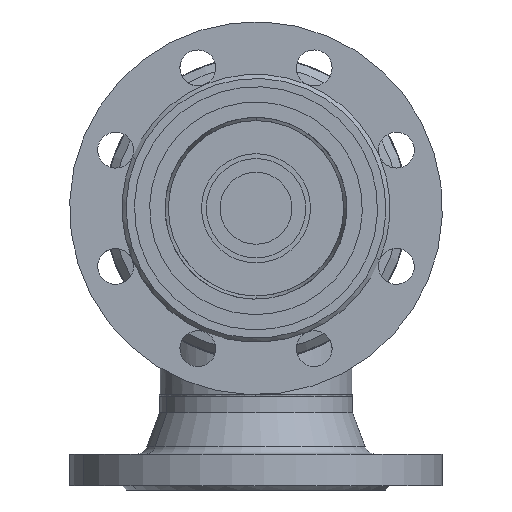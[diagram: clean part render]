
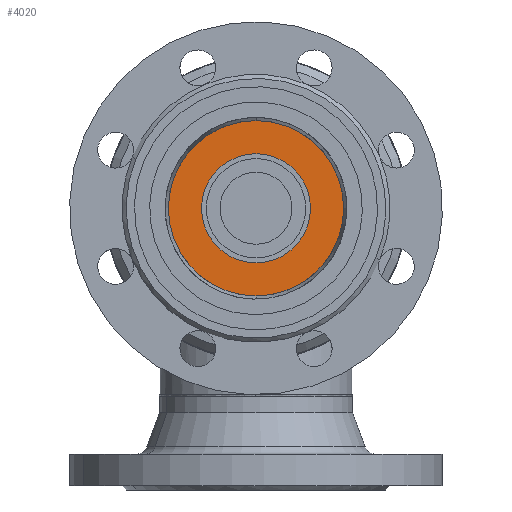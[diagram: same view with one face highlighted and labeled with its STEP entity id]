
A CAD part, front view. The second image highlights one B-rep face of the part: STEP entity #4020.
In plain terms, the highlighted planar face has unit normal (0, -1, 0) as drawn and (0, 0, 1) by its records, which use the part's own axes.
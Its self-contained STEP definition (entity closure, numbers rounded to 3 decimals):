
#1210 = VERTEX_POINT ( 'NONE', #6002 ) ;
#1411 = CIRCLE ( 'NONE', #1412, 70. ) ;
#1412 = AXIS2_PLACEMENT_3D ( 'NONE', #1413, #1414, #1415 ) ;
#1413 = CARTESIAN_POINT ( 'NONE',  ( 0., 0., 15. ) ) ;
#1414 = DIRECTION ( 'NONE',  ( 0., 0., 1. ) ) ;
#1415 = DIRECTION ( 'NONE',  ( 1., 0., 0. ) ) ;
#1437 = EDGE_CURVE ( 'NONE', #4568, #1210, #6622, .T. ) ;
#2029 = EDGE_CURVE ( 'NONE', #1210, #4568, #7139, .T. ) ;
#2067 = FACE_OUTER_BOUND ( 'NONE', #3987, .T. ) ;
#2068 = FACE_BOUND ( 'NONE', #6162, .T. ) ;
#2069 = PLANE ( 'NONE',  #2070 ) ;
#2070 = AXIS2_PLACEMENT_3D ( 'NONE', #2071, #2072, #2073 ) ;
#2071 = CARTESIAN_POINT ( 'NONE',  ( 0., 0., 15. ) ) ;
#2072 = DIRECTION ( 'NONE',  ( 0., 0., 1. ) ) ;
#2073 = DIRECTION ( 'NONE',  ( 1., 0., 0. ) ) ;
#3899 = EDGE_CURVE ( 'NONE', #4614, #5608, #1411, .T. ) ;
#3918 = ORIENTED_EDGE ( 'NONE', *, *, #3899, .T. ) ;
#3987 = EDGE_LOOP ( 'NONE', ( #3918, #6406 ) ) ;
#4020 = ADVANCED_FACE ( 'NONE', ( #2067, #2068 ), #2069, .T. ) ;
#4568 = VERTEX_POINT ( 'NONE', #7286 ) ;
#4614 = VERTEX_POINT ( 'NONE', #7600 ) ;
#4721 = EDGE_CURVE ( 'NONE', #5608, #4614, #8223, .T. ) ;
#5135 = ORIENTED_EDGE ( 'NONE', *, *, #1437, .F. ) ;
#5608 = VERTEX_POINT ( 'NONE', #9927 ) ;
#5647 = ORIENTED_EDGE ( 'NONE', *, *, #2029, .F. ) ;
#6002 = CARTESIAN_POINT ( 'NONE',  ( -39.5, 0., 15. ) ) ;
#6162 = EDGE_LOOP ( 'NONE', ( #5647, #5135 ) ) ;
#6406 = ORIENTED_EDGE ( 'NONE', *, *, #4721, .T. ) ;
#6622 = CIRCLE ( 'NONE', #6623, 39.5 ) ;
#6623 = AXIS2_PLACEMENT_3D ( 'NONE', #6624, #6625, #6626 ) ;
#6624 = CARTESIAN_POINT ( 'NONE',  ( 0., 0., 15. ) ) ;
#6625 = DIRECTION ( 'NONE',  ( 0., 0., 1. ) ) ;
#6626 = DIRECTION ( 'NONE',  ( 1., 0., 0. ) ) ;
#7139 = CIRCLE ( 'NONE', #7140, 39.5 ) ;
#7140 = AXIS2_PLACEMENT_3D ( 'NONE', #7141, #7142, #7143 ) ;
#7141 = CARTESIAN_POINT ( 'NONE',  ( 0., 0., 15. ) ) ;
#7142 = DIRECTION ( 'NONE',  ( 0., 0., 1. ) ) ;
#7143 = DIRECTION ( 'NONE',  ( 1., 0., 0. ) ) ;
#7286 = CARTESIAN_POINT ( 'NONE',  ( 39.5, 0., 15. ) ) ;
#7600 = CARTESIAN_POINT ( 'NONE',  ( -70., 0., 15. ) ) ;
#8223 = CIRCLE ( 'NONE', #8224, 70. ) ;
#8224 = AXIS2_PLACEMENT_3D ( 'NONE', #8225, #8226, #8227 ) ;
#8225 = CARTESIAN_POINT ( 'NONE',  ( 0., 0., 15. ) ) ;
#8226 = DIRECTION ( 'NONE',  ( 0., 0., 1. ) ) ;
#8227 = DIRECTION ( 'NONE',  ( 1., 0., 0. ) ) ;
#9927 = CARTESIAN_POINT ( 'NONE',  ( 70., 0., 15. ) ) ;
